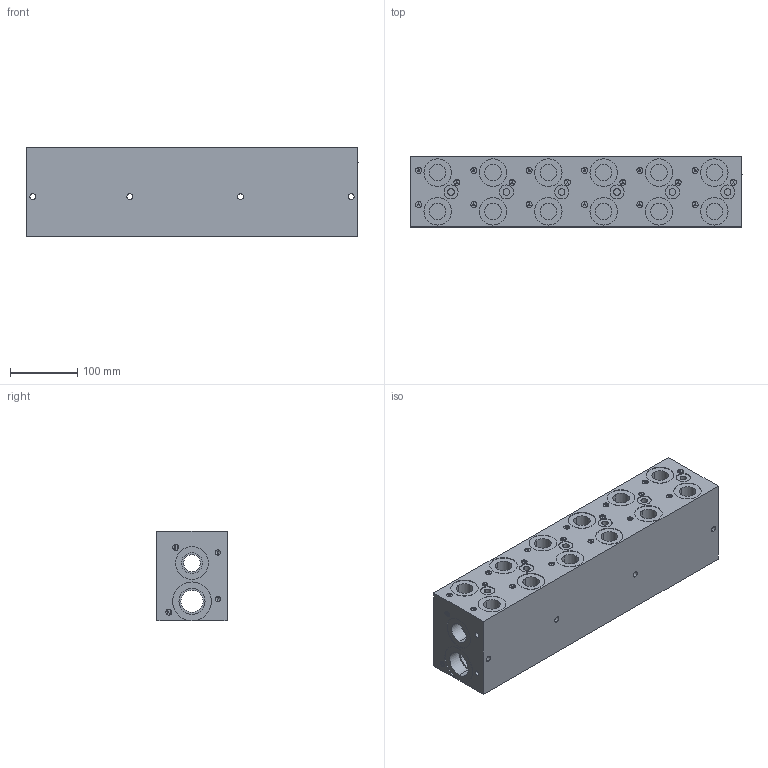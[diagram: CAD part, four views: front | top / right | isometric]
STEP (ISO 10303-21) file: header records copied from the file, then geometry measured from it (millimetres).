
FILE_DESCRIPTION (( 'STEP AP203' ), '1' );
FILE_NAME ('BM-AHP05HS3-06-1_Z.STEP', '2015-01-06T16:20:35', ( '' ), ( '' ), 'SwSTEP 2.0', 'SolidWorks 2014', '' );
FILE_SCHEMA (( 'CONFIG_CONTROL_DESIGN' ));
Length unit declared in the file: inch
Products named in the file (1): BM-AHP05HS3-06-1_Z
Bounding box: 495.3 x 104.65 x 133.35 mm (x, y, z)
Volume: 6007424 mm3; surface area: 411278.7 mm2
Topology: 1 solids, 1 shells, 1061 faces, 2579 edges, 1619 vertices
Faces by surface type: plane 492, cylinder 365, cone 130, bspline 74
Entity records: 34800 total; most frequent: CARTESIAN_POINT 10280, DIRECTION 4983, ORIENTED_EDGE 4922, EDGE_CURVE 2461, AXIS2_PLACEMENT_3D 1718, VERTEX_POINT 1619, VECTOR 1547, LINE 1547
